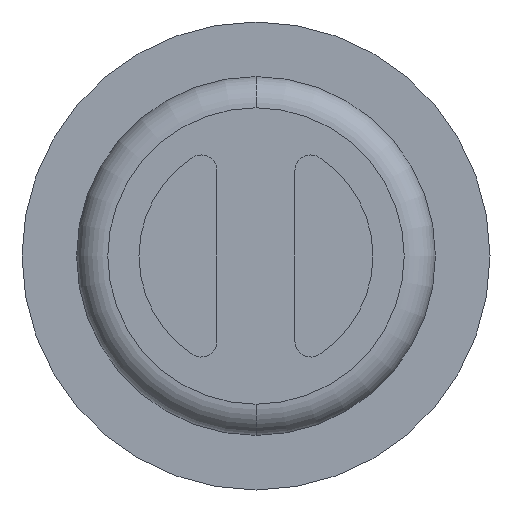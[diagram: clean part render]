
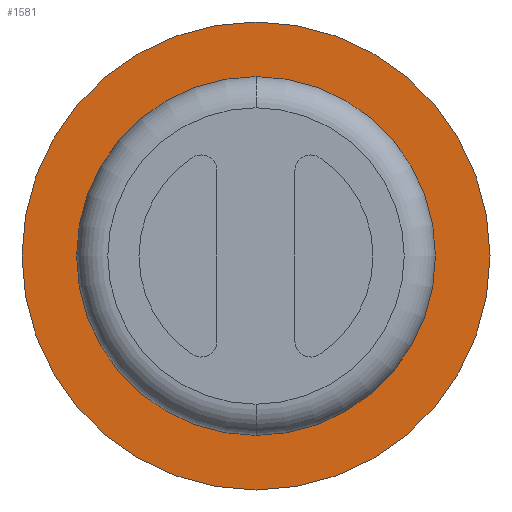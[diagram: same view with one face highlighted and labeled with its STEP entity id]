
A CAD part, front view. The second image highlights one B-rep face of the part: STEP entity #1581.
In plain terms, the highlighted planar face has unit normal (0, -1, 0).
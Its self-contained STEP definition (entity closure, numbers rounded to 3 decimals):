
#8 = EDGE_CURVE ( 'NONE', #1851, #1531, #1385, .T. ) ;
#10 = DIRECTION ( 'NONE',  ( 0., 1., 0. ) ) ;
#188 = CARTESIAN_POINT ( 'NONE',  ( 0., 2., 0. ) ) ;
#208 = CARTESIAN_POINT ( 'NONE',  ( 0., 2., 0. ) ) ;
#268 = AXIS2_PLACEMENT_3D ( 'NONE', #208, #1579, #2345 ) ;
#350 = VERTEX_POINT ( 'NONE', #2230 ) ;
#395 = EDGE_LOOP ( 'NONE', ( #1124, #2075 ) ) ;
#415 = EDGE_CURVE ( 'NONE', #350, #724, #1107, .T. ) ;
#433 = CARTESIAN_POINT ( 'NONE',  ( 0., 2., -15. ) ) ;
#577 = EDGE_CURVE ( 'NONE', #1531, #1851, #1872, .T. ) ;
#672 = CARTESIAN_POINT ( 'NONE',  ( 0., 2., 11.5 ) ) ;
#724 = VERTEX_POINT ( 'NONE', #672 ) ;
#749 = DIRECTION ( 'NONE',  ( 0., 0., 1. ) ) ;
#757 = CARTESIAN_POINT ( 'NONE',  ( 0., 2., 0. ) ) ;
#820 = AXIS2_PLACEMENT_3D ( 'NONE', #1547, #2108, #2152 ) ;
#831 = FACE_BOUND ( 'NONE', #2321, .T. ) ;
#919 = ORIENTED_EDGE ( 'NONE', *, *, #1752, .T. ) ;
#920 = DIRECTION ( 'NONE',  ( 0., 1., 0. ) ) ;
#1107 = CIRCLE ( 'NONE', #1952, 11.5 ) ;
#1124 = ORIENTED_EDGE ( 'NONE', *, *, #577, .F. ) ;
#1211 = CARTESIAN_POINT ( 'NONE',  ( 0., 2., 0. ) ) ;
#1226 = PLANE ( 'NONE',  #2380 ) ;
#1302 = AXIS2_PLACEMENT_3D ( 'NONE', #757, #920, #1342 ) ;
#1342 = DIRECTION ( 'NONE',  ( 0., 0., 1. ) ) ;
#1385 = CIRCLE ( 'NONE', #1302, 15. ) ;
#1420 = DIRECTION ( 'NONE',  ( 0., 1., 0. ) ) ;
#1531 = VERTEX_POINT ( 'NONE', #433 ) ;
#1547 = CARTESIAN_POINT ( 'NONE',  ( 0., 2., 0. ) ) ;
#1579 = DIRECTION ( 'NONE',  ( 0., 1., 0. ) ) ;
#1581 = ADVANCED_FACE ( 'NONE', ( #831, #2228 ), #1226, .F. ) ;
#1752 = EDGE_CURVE ( 'NONE', #724, #350, #1904, .T. ) ;
#1782 = DIRECTION ( 'NONE',  ( 0., 0., 1. ) ) ;
#1851 = VERTEX_POINT ( 'NONE', #2174 ) ;
#1872 = CIRCLE ( 'NONE', #268, 15. ) ;
#1904 = CIRCLE ( 'NONE', #820, 11.5 ) ;
#1952 = AXIS2_PLACEMENT_3D ( 'NONE', #188, #10, #749 ) ;
#2021 = ORIENTED_EDGE ( 'NONE', *, *, #415, .T. ) ;
#2075 = ORIENTED_EDGE ( 'NONE', *, *, #8, .F. ) ;
#2108 = DIRECTION ( 'NONE',  ( 0., 1., 0. ) ) ;
#2152 = DIRECTION ( 'NONE',  ( 0., 0., 1. ) ) ;
#2174 = CARTESIAN_POINT ( 'NONE',  ( 0., 2., 15. ) ) ;
#2228 = FACE_OUTER_BOUND ( 'NONE', #395, .T. ) ;
#2230 = CARTESIAN_POINT ( 'NONE',  ( 0., 2., -11.5 ) ) ;
#2321 = EDGE_LOOP ( 'NONE', ( #919, #2021 ) ) ;
#2345 = DIRECTION ( 'NONE',  ( 0., 0., 1. ) ) ;
#2380 = AXIS2_PLACEMENT_3D ( 'NONE', #1211, #1420, #1782 ) ;
